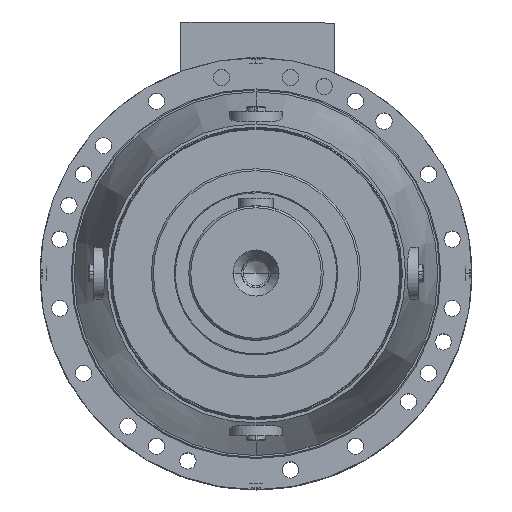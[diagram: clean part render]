
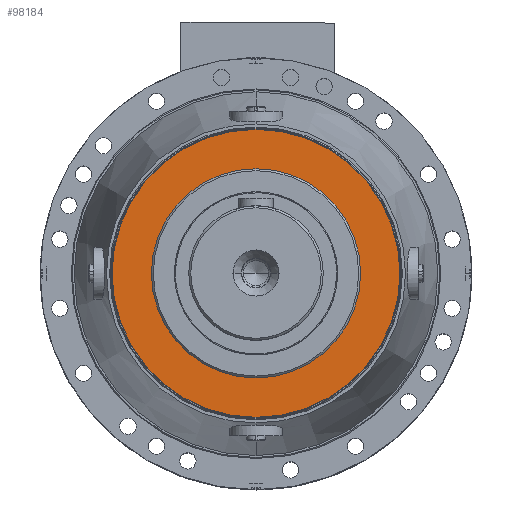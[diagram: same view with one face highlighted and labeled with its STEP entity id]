
A CAD part, top view. The second image highlights one B-rep face of the part: STEP entity #98184.
In plain terms, the highlighted planar face has unit normal (0, 0, 1).
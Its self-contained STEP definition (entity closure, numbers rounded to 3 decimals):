
#7934 = CARTESIAN_POINT ( 'NONE',  ( 0., -150., 220. ) ) ;
#8083 = CARTESIAN_POINT ( 'NONE',  ( 0., 109., 220. ) ) ;
#8147 = CARTESIAN_POINT ( 'NONE',  ( 0., -109., 220. ) ) ;
#25626 = DIRECTION ( 'NONE',  ( 0., 0., -1. ) ) ;
#25633 = CARTESIAN_POINT ( 'NONE',  ( 0., 0., 220. ) ) ;
#25638 = DIRECTION ( 'NONE',  ( 0., 1., 0. ) ) ;
#25649 = CARTESIAN_POINT ( 'NONE',  ( 0., 0., 220. ) ) ;
#25654 = DIRECTION ( 'NONE',  ( 0., 0., 1. ) ) ;
#25661 = CARTESIAN_POINT ( 'NONE',  ( 0., 0., 220. ) ) ;
#25664 = DIRECTION ( 'NONE',  ( 0., 1., 0. ) ) ;
#25672 = DIRECTION ( 'NONE',  ( 0., 1., 0. ) ) ;
#25673 = DIRECTION ( 'NONE',  ( 0., 0., -1. ) ) ;
#25674 = DIRECTION ( 'NONE',  ( 0., 0., 1. ) ) ;
#25678 = CARTESIAN_POINT ( 'NONE',  ( 0., 0., 220. ) ) ;
#25684 = DIRECTION ( 'NONE',  ( 0., 1., 0. ) ) ;
#27024 = EDGE_LOOP ( 'NONE', ( #88373, #88401 ) ) ;
#27051 = EDGE_LOOP ( 'NONE', ( #88405, #88422 ) ) ;
#36872 = FACE_BOUND ( 'NONE', #27024, .T. ) ;
#36885 = FACE_OUTER_BOUND ( 'NONE', #27051, .T. ) ;
#44594 = CIRCLE ( 'NONE', #78400, 109. ) ;
#44618 = CIRCLE ( 'NONE', #78416, 109. ) ;
#44678 = CIRCLE ( 'NONE', #78317, 150. ) ;
#44736 = CIRCLE ( 'NONE', #78332, 150. ) ;
#48318 = VERTEX_POINT ( 'NONE', #7934 ) ;
#48340 = VERTEX_POINT ( 'NONE', #8083 ) ;
#48361 = VERTEX_POINT ( 'NONE', #8147 ) ;
#48422 = VERTEX_POINT ( 'NONE', #72312 ) ;
#57748 = CARTESIAN_POINT ( 'NONE',  ( 0., 150., 220. ) ) ;
#57755 = DIRECTION ( 'NONE',  ( 0., 0., -1. ) ) ;
#57807 = DIRECTION ( 'NONE',  ( 0., 1., 0. ) ) ;
#57815 = PLANE ( 'NONE',  #79935 ) ;
#72312 = CARTESIAN_POINT ( 'NONE',  ( 0., 150., 220. ) ) ;
#78317 = AXIS2_PLACEMENT_3D ( 'NONE', #25633, #25626, #25638 ) ;
#78332 = AXIS2_PLACEMENT_3D ( 'NONE', #25661, #25673, #25684 ) ;
#78400 = AXIS2_PLACEMENT_3D ( 'NONE', #25649, #25674, #25672 ) ;
#78416 = AXIS2_PLACEMENT_3D ( 'NONE', #25678, #25654, #25664 ) ;
#79935 = AXIS2_PLACEMENT_3D ( 'NONE', #57748, #57755, #57807 ) ;
#88373 = ORIENTED_EDGE ( 'NONE', *, *, #94724, .F. ) ;
#88401 = ORIENTED_EDGE ( 'NONE', *, *, #94734, .F. ) ;
#88405 = ORIENTED_EDGE ( 'NONE', *, *, #94681, .F. ) ;
#88422 = ORIENTED_EDGE ( 'NONE', *, *, #94762, .F. ) ;
#94681 = EDGE_CURVE ( 'NONE', #48422, #48318, #44678, .T. ) ;
#94724 = EDGE_CURVE ( 'NONE', #48340, #48361, #44618, .T. ) ;
#94734 = EDGE_CURVE ( 'NONE', #48361, #48340, #44594, .T. ) ;
#94762 = EDGE_CURVE ( 'NONE', #48318, #48422, #44736, .T. ) ;
#98184 = ADVANCED_FACE ( 'NONE', ( #36872, #36885 ), #57815, .F. ) ;
